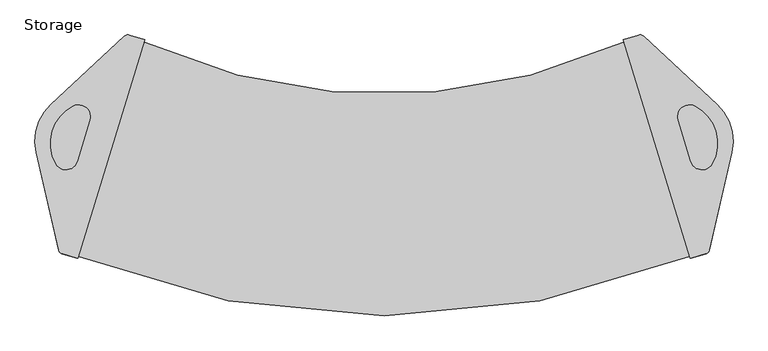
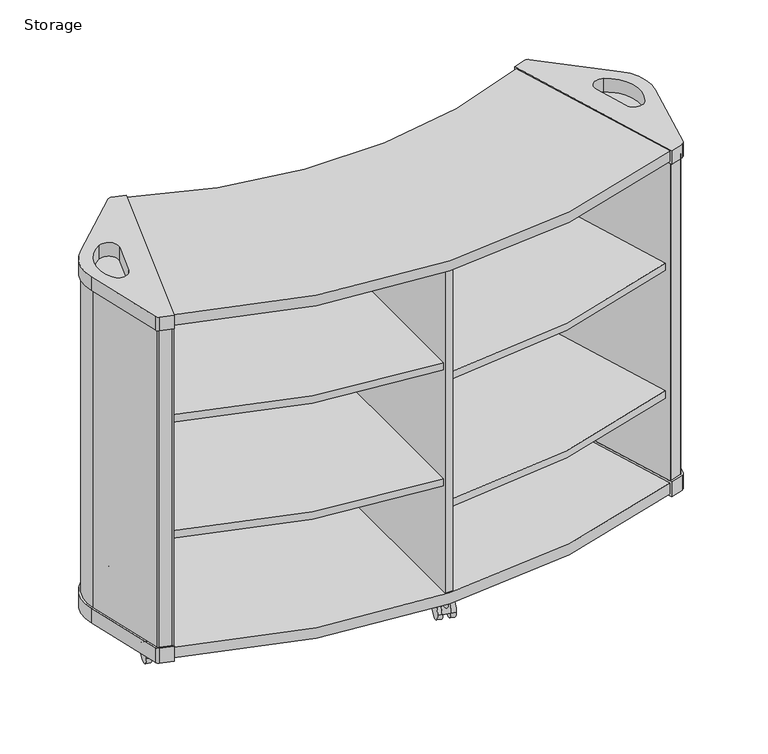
"""IFC4 building model written with IfcOpenShell, lengths in millimetres: furniture geometry, SmithSystem_AM_Storage_Education_Flowform_Mobile_Curved : Storage."""

from ifc_helpers import new_model, si_unit, point, frame, frame_2d, origin, place, context, project, spatial, polyline, circle_curve, trimmed, segment, composite_curve, outline, extrude, source, transform, mapped, element, save
from ifc_brep_helpers import plane_surface, cylinder_surface, revolved_surface, advanced_brep


def storage_93ea17b7(model_context):
    return source(origin(), model_context, "Body", "SolidModel", [
        extrude(outline(composite_curve([segment(polyline([(-658.8758878, -353.7996773), (-692.633463, -343.4300044)]), True, "CONTINUOUS"), segment(trimmed(circle_curve(frame_2d((-689.6500909, -333.7178939)), 10.16), [point((-692.633463, -343.4300044))], [point((-699.5527114, -335.9902731))], False, "CARTESIAN"), True, "CONTINUOUS"), segment(polyline([(-699.5527114, -335.9902731), (-747.8615058, -125.4692227)]), True, "CONTINUOUS"), segment(trimmed(circle_curve(frame_2d((-642.646163, -101.3251936)), 107.95), [point((-747.8615058, -125.4692227))], [point((-716.163177, -22.2780484))], False, "CARTESIAN"), True, "CONTINUOUS"), segment(polyline([(-716.163177, -22.2780484), (-558.0009965, 124.81912)]), True, "CONTINUOUS"), segment(trimmed(circle_curve(frame_2d((-551.0817481, 117.3793887)), 10.16), [point((-558.0009965, 124.81912))], [point((-548.098376, 127.0914993))], False, "CARTESIAN"), True, "CONTINUOUS"), segment(polyline([(-548.098376, 127.0914993), (-514.3408008, 116.7218264), (-658.8758878, -353.7996773)]), True, "CONTINUOUS")], self_intersect=False), holes=[composite_curve([segment(polyline([(-659.4941023, -144.963169), (-632.3325687, -56.1217958)]), True, "CONTINUOUS"), segment(trimmed(circle_curve(frame_2d((-656.6227095, -48.6955545)), 25.4), [point((-632.3325687, -56.1217958))], [point((-668.1431652, -26.0584368))], True, "CARTESIAN"), True, "CONTINUOUS"), segment(trimmed(circle_curve(frame_2d((-627.3482506, -106.2183985)), 89.9435629), [point((-668.1431652, -26.0584368))], [point((-705.9936493, -149.8617918))], True, "CARTESIAN"), True, "CONTINUOUS"), segment(trimmed(circle_curve(frame_2d((-683.7842431, -137.5369277)), 25.4), [point((-705.9936493, -149.8617918))], [point((-659.4941023, -144.963169))], True, "CARTESIAN"), True, "CONTINUOUS")], self_intersect=False)]), frame((0.0, 0.0, 986.5877449), z_axis=(0.0, 0.0, 1.0), x_axis=(1.0, 0.0, 0.0)), (0.0, 0.0, 1.0), 38.0247139),
        extrude(outline(composite_curve([segment(polyline([(658.8758878, -353.7996773), (514.3408008, 116.7218264), (548.098376, 127.0914993)]), True, "CONTINUOUS"), segment(trimmed(circle_curve(frame_2d((551.0817481, 117.3793887)), 10.16), [point((548.098376, 127.0914993))], [point((558.0009965, 124.81912))], False, "CARTESIAN"), True, "CONTINUOUS"), segment(polyline([(558.0009965, 124.81912), (716.163177, -22.2780484)]), True, "CONTINUOUS"), segment(trimmed(circle_curve(frame_2d((642.646163, -101.3251936)), 107.95), [point((716.163177, -22.2780484))], [point((747.8615058, -125.4692227))], False, "CARTESIAN"), True, "CONTINUOUS"), segment(polyline([(747.8615058, -125.4692227), (699.5527114, -335.9902731)]), True, "CONTINUOUS"), segment(trimmed(circle_curve(frame_2d((689.6500909, -333.7178939)), 10.16), [point((699.5527114, -335.9902731))], [point((692.633463, -343.4300044))], False, "CARTESIAN"), True, "CONTINUOUS"), segment(polyline([(692.633463, -343.4300044), (658.8758878, -353.7996773)]), True, "CONTINUOUS")], self_intersect=False), holes=[composite_curve([segment(trimmed(circle_curve(frame_2d((683.7842431, -137.5369277)), 25.4), [point((659.4941023, -144.963169))], [point((705.9936493, -149.8617918))], True, "CARTESIAN"), True, "CONTINUOUS"), segment(trimmed(circle_curve(frame_2d((627.3482506, -106.2183985)), 89.9435629), [point((705.9936493, -149.8617918))], [point((668.1431652, -26.0584368))], True, "CARTESIAN"), True, "CONTINUOUS"), segment(trimmed(circle_curve(frame_2d((656.6227095, -48.6955545)), 25.4), [point((668.1431652, -26.0584368))], [point((632.3325687, -56.1217958))], True, "CARTESIAN"), True, "CONTINUOUS"), segment(polyline([(632.3325687, -56.1217958), (659.4941023, -144.963169)]), True, "CONTINUOUS")], self_intersect=False)]), frame((0.0, 0.0, 986.5877449), z_axis=(0.0, 0.0, 1.0), x_axis=(1.0, 0.0, 0.0)), (0.0, 0.0, 1.0), 38.0247139),
        advanced_brep(
        [(-712.7035528, -25.9979141, 992.8751518), (-742.9101956, -124.3330331, 992.8751518), (-694.6014012, -334.8540835, 992.8751518), (-691.141777, -338.5739492, 992.8751518), (-662.240257, -347.451936, 992.8751518), (-520.6885421, 113.3574572, 992.8751518), (-549.590062, 122.235444, 992.8751518), (-554.5413723, 121.0992544, 992.8751518), (-632.3325687, -56.1217958, 992.8751518), (-659.4941023, -144.963169, 992.8751518), (-705.9936493, -149.8617918, 992.8751518), (-668.1431652, -26.0584368, 992.8751518), (-712.7035528, -25.9979141, 96.3183094), (-554.5413723, 121.0992544, 96.3183094), (-549.590062, 122.235444, 96.3183094), (-520.6885421, 113.3574572, 96.3183094), (-662.240257, -347.451936, 96.3183094), (-691.141777, -338.5739492, 96.3183094), (-694.6014012, -334.8540835, 96.3183094), (-742.9101956, -124.3330331, 96.3183094), (-659.4941023, -144.963169, 986.5877449), (-632.3325687, -56.1217958, 986.5877449), (-668.1431652, -26.0584368, 986.5877449), (-705.9936493, -149.8617918, 986.5877449)],
        [
            (0, 1, circle_curve(frame((-642.646163, -101.3251936, 992.8751518), z_axis=(0.0, 0.0, 1.0), x_axis=(0.955916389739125, -0.293638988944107, 0.0)), 102.87)),
            (1, 2),
            (2, 3, circle_curve(frame((-689.6500909, -333.7178939, 992.8751518), z_axis=(0.0, 0.0, 1.0), x_axis=(0.955916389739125, -0.293638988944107, 0.0)), 5.08)),
            (3, 4),
            (4, 5),
            (5, 6),
            (6, 7, circle_curve(frame((-551.0817481, 117.3793887, 992.8751518), z_axis=(0.0, 0.0, 1.0), x_axis=(0.955916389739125, -0.293638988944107, 0.0)), 5.08)),
            (7, 0),
            (8, 9),
            (9, 10, circle_curve(frame((-683.7842431, -137.5369277, 992.8751518), z_axis=(0.0, 0.0, -1.0), x_axis=(1.0, 0.0, 0.0)), 25.4)),
            (10, 11, circle_curve(frame((-627.3482506, -106.2183985, 992.8751518), z_axis=(0.0, 0.0, -1.0), x_axis=(1.0, 0.0, 0.0)), 89.9435629)),
            (11, 8, circle_curve(frame((-656.6227095, -48.6955545, 992.8751518), z_axis=(0.0, 0.0, -1.0), x_axis=(1.0, 0.0, 0.0)), 25.4)),
            (12, 13),
            (13, 14, circle_curve(frame((-551.0817481, 117.3793887, 96.3183094), z_axis=(0.0, 0.0, -1.0), x_axis=(0.955916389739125, -0.293638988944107, 0.0)), 5.08)),
            (14, 15),
            (15, 16),
            (16, 17),
            (17, 18, circle_curve(frame((-689.6500909, -333.7178939, 96.3183094), z_axis=(0.0, 0.0, -1.0), x_axis=(0.955916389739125, -0.293638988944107, 0.0)), 5.08)),
            (18, 19),
            (19, 12, circle_curve(frame((-642.646163, -101.3251936, 96.3183094), z_axis=(0.0, 0.0, -1.0), x_axis=(0.955916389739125, -0.293638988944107, 0.0)), 102.87)),
            (0, 12),
            (19, 1),
            (18, 2),
            (17, 3),
            (16, 4),
            (15, 5),
            (14, 6),
            (13, 7),
            (20, 21),
            (21, 22, circle_curve(frame((-656.6227095, -48.6955545, 986.5877449), z_axis=(0.0, 0.0, 1.0), x_axis=(1.0, 0.0, 0.0)), 25.4)),
            (22, 23, circle_curve(frame((-627.3482506, -106.2183985, 986.5877449), z_axis=(0.0, 0.0, 1.0), x_axis=(1.0, 0.0, 0.0)), 89.9435629)),
            (23, 20, circle_curve(frame((-683.7842431, -137.5369277, 986.5877449), z_axis=(0.0, 0.0, 1.0), x_axis=(1.0, 0.0, 0.0)), 25.4)),
            (20, 9),
            (8, 21),
            (11, 22),
            (10, 23),
        ],
        [
            plane_surface(frame((-544.311044, -131.5318364, 992.8751518), z_axis=(0.0, 0.0, 1.0), x_axis=(0.293638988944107, 0.955916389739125, 0.0))),
            plane_surface(frame((-544.311044, -131.5318364, 96.3183094), z_axis=(0.0, 0.0, -1.0), x_axis=(-0.293638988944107, -0.955916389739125, 0.0))),
            cylinder_surface(frame((-642.646163, -101.3251936, 96.3183094), z_axis=(0.0, 0.0, 1.0), x_axis=(0.955916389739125, -0.293638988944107, 0.0)), 102.87),
            plane_surface(frame((-742.9101956, -124.3330331, 992.8751518), z_axis=(-0.9746673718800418, -0.22365937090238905, 0.0), x_axis=(0.0, 0.0, -1.0))),
            cylinder_surface(frame((-689.6500909, -333.7178939, 96.3183094), z_axis=(0.0, 0.0, 1.0), x_axis=(0.955916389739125, -0.293638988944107, 0.0)), 5.08),
            plane_surface(frame((-691.141777, -338.5739492, 992.8751518), z_axis=(-0.2936389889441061, -0.9559163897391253, 0.0), x_axis=(0.0, 0.0, -1.0))),
            plane_surface(frame((-662.240257, -347.451936, 992.8751518), z_axis=(0.9559163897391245, -0.29363898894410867, 0.0), x_axis=(0.0, 0.0, -1.0))),
            plane_surface(frame((-520.6885421, 113.3574572, 992.8751518), z_axis=(0.29363898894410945, 0.9559163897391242, 0.0), x_axis=(0.0, 0.0, -1.0))),
            cylinder_surface(frame((-551.0817481, 117.3793887, 96.3183094), z_axis=(0.0, 0.0, 1.0), x_axis=(0.955916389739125, -0.293638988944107, 0.0)), 5.08),
            plane_surface(frame((-554.5413723, 121.0992544, 992.8751518), z_axis=(-0.6810283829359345, 0.7322570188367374, 0.0), x_axis=(0.0, 0.0, -1.0))),
            plane_surface(frame((-632.9080197, -58.0040112, 986.5877449), z_axis=(0.0, 0.0, 1.0000000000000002), x_axis=(-0.2923717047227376, -0.9563047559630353, 0.0))),
            plane_surface(frame((-659.4941023, -144.963169, 1115.0672484), z_axis=(-0.9563047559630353, 0.2923717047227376, 0.0), x_axis=(0.0, 0.0, -1.0))),
            revolved_surface(polyline([(-631.2227095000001, -48.6955545, 992.8751518), (-631.2227095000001, -48.6955545, 986.5877449)]), (-656.6227095, -48.6955545, 986.5877449), (0.0, 0.0, 1.0)),
            revolved_surface(polyline([(-537.4046877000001, -106.2183985, 992.8751518), (-537.4046877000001, -106.2183985, 986.5877449)]), (-627.3482506, -106.2183985, 986.5877449), (0.0, 0.0, 1.0)),
            revolved_surface(polyline([(-658.3842431, -137.5369277, 992.8751518), (-658.3842431, -137.5369277, 986.5877449)]), (-683.7842431, -137.5369277, 986.5877449), (0.0, 0.0, 1.0)),
        ],
        [
            (0, [[1, 2, 3, 4, 5, 6, 7, 8], [9, 10, 11, 12]]),
            (1, [[13, 14, 15, 16, 17, 18, 19, 20]]),
            (2, [[-1, 21, -20, 22]]),
            (3, [[-2, -22, -19, 23]]),
            (4, [[-3, -23, -18, 24]]),
            (5, [[-4, -24, -17, 25]]),
            (6, [[-5, -25, -16, 26]]),
            (7, [[-6, -26, -15, 27]]),
            (8, [[-7, -27, -14, 28]]),
            (9, [[-8, -28, -13, -21]]),
            (10, [[29, 30, 31, 32]]),
            (11, [[-29, 33, -9, 34]]),
            (12, [[-30, -34, -12, 35]]),
            (13, [[-31, -35, -11, 36]]),
            (14, [[-32, -36, -10, -33]]),
        ],
    ),
        advanced_brep(
        [(712.7035528, -25.9979141, 992.8751518), (554.5413723, 121.0992544, 992.8751518), (549.590062, 122.235444, 992.8751518), (520.6885421, 113.3574572, 992.8751518), (662.240257, -347.451936, 992.8751518), (691.141777, -338.5739492, 992.8751518), (694.6014012, -334.8540835, 992.8751518), (742.9101956, -124.3330331, 992.8751518), (705.9936493, -149.8617918, 992.8751518), (659.4941023, -144.963169, 992.8751518), (632.3325687, -56.1217958, 992.8751518), (668.1431652, -26.0584368, 992.8751518), (712.7035528, -25.9979141, 96.3183094), (742.9101956, -124.3330331, 96.3183094), (694.6014012, -334.8540835, 96.3183094), (691.141777, -338.5739492, 96.3183094), (662.240257, -347.451936, 96.3183094), (520.6885421, 113.3574572, 96.3183094), (549.590062, 122.235444, 96.3183094), (554.5413723, 121.0992544, 96.3183094), (659.4941023, -144.963169, 986.5877449), (705.9936493, -149.8617918, 986.5877449), (668.1431652, -26.0584368, 986.5877449), (632.3325687, -56.1217958, 986.5877449)],
        [
            (0, 1),
            (1, 2, circle_curve(frame((551.0817481, 117.3793887, 992.8751518), z_axis=(0.0, 0.0, 1.0), x_axis=(-0.955916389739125, -0.293638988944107, 0.0)), 5.08)),
            (2, 3),
            (3, 4),
            (4, 5),
            (5, 6, circle_curve(frame((689.6500909, -333.7178939, 992.8751518), z_axis=(0.0, 0.0, 1.0), x_axis=(-0.955916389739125, -0.293638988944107, 0.0)), 5.08)),
            (6, 7),
            (7, 0, circle_curve(frame((642.646163, -101.3251936, 992.8751518), z_axis=(0.0, 0.0, 1.0), x_axis=(-0.955916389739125, -0.293638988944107, 0.0)), 102.87)),
            (8, 9, circle_curve(frame((683.7842431, -137.5369277, 992.8751518), z_axis=(0.0, 0.0, -1.0), x_axis=(-1.0, 0.0, 0.0)), 25.4)),
            (9, 10),
            (10, 11, circle_curve(frame((656.6227095, -48.6955545, 992.8751518), z_axis=(0.0, 0.0, -1.0), x_axis=(-1.0, 0.0, 0.0)), 25.4)),
            (11, 8, circle_curve(frame((627.3482506, -106.2183985, 992.8751518), z_axis=(0.0, 0.0, -1.0), x_axis=(-1.0, 0.0, 0.0)), 89.9435629)),
            (12, 13, circle_curve(frame((642.646163, -101.3251936, 96.3183094), z_axis=(0.0, 0.0, -1.0), x_axis=(-0.955916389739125, -0.293638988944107, 0.0)), 102.87)),
            (13, 14),
            (14, 15, circle_curve(frame((689.6500909, -333.7178939, 96.3183094), z_axis=(0.0, 0.0, -1.0), x_axis=(-0.955916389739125, -0.293638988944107, 0.0)), 5.08)),
            (15, 16),
            (16, 17),
            (17, 18),
            (18, 19, circle_curve(frame((551.0817481, 117.3793887, 96.3183094), z_axis=(0.0, 0.0, -1.0), x_axis=(-0.955916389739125, -0.293638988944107, 0.0)), 5.08)),
            (19, 12),
            (0, 12),
            (19, 1),
            (18, 2),
            (17, 3),
            (16, 4),
            (15, 5),
            (14, 6),
            (13, 7),
            (20, 21, circle_curve(frame((683.7842431, -137.5369277, 986.5877449), z_axis=(0.0, 0.0, 1.0), x_axis=(-1.0, 0.0, 0.0)), 25.4)),
            (21, 22, circle_curve(frame((627.3482506, -106.2183985, 986.5877449), z_axis=(0.0, 0.0, 1.0), x_axis=(-1.0, 0.0, 0.0)), 89.9435629)),
            (22, 23, circle_curve(frame((656.6227095, -48.6955545, 986.5877449), z_axis=(0.0, 0.0, 1.0), x_axis=(-1.0, 0.0, 0.0)), 25.4)),
            (23, 20),
            (20, 9),
            (8, 21),
            (11, 22),
            (10, 23),
        ],
        [
            plane_surface(frame((-544.311044, -131.5318364, 992.8751518), z_axis=(0.0, 0.0, 1.0), x_axis=(0.293638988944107, 0.955916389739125, 0.0))),
            plane_surface(frame((-544.311044, -131.5318364, 96.3183094), z_axis=(0.0, 0.0, -1.0), x_axis=(-0.293638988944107, -0.955916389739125, 0.0))),
            plane_surface(frame((712.7035528, -25.9979141, 992.8751518), z_axis=(0.6810283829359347, 0.7322570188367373, 0.0), x_axis=(0.0, 0.0, -1.0))),
            cylinder_surface(frame((551.0817481, 117.3793887, 0.0), z_axis=(0.0, 0.0, 1.0), x_axis=(-0.955916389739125, -0.293638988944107, 0.0)), 5.08),
            plane_surface(frame((549.590062, 122.235444, 992.8751518), z_axis=(-0.29363898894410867, 0.9559163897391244, 0.0), x_axis=(0.0, 0.0, -1.0))),
            plane_surface(frame((520.6885421, 113.3574572, 992.8751518), z_axis=(-0.9559163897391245, -0.2936389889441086, 0.0), x_axis=(0.0, 0.0, -1.0))),
            plane_surface(frame((662.240257, -347.451936, 992.8751518), z_axis=(0.2936389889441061, -0.9559163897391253, 0.0), x_axis=(0.0, 0.0, -1.0))),
            cylinder_surface(frame((689.6500909, -333.7178939, 0.0), z_axis=(0.0, 0.0, 1.0), x_axis=(-0.955916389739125, -0.293638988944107, 0.0)), 5.08),
            plane_surface(frame((694.6014012, -334.8540835, 992.8751518), z_axis=(0.9746673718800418, -0.22365937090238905, 0.0), x_axis=(0.0, 0.0, -1.0))),
            cylinder_surface(frame((642.646163, -101.3251936, 0.0), z_axis=(0.0, 0.0, 1.0), x_axis=(-0.955916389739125, -0.293638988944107, 0.0)), 102.87),
            plane_surface(frame((-632.9080197, -58.0040112, 986.5877449), z_axis=(0.0, 0.0, 1.0000000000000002), x_axis=(-0.2923717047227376, -0.9563047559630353, 0.0))),
            revolved_surface(polyline([(658.3842431, -137.5369277, 992.8751518), (658.3842431, -137.5369277, 986.5877449)]), (683.7842431, -137.5369277, 0.0), (0.0, 0.0, 1.0)),
            revolved_surface(polyline([(537.4046877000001, -106.2183985, 992.8751518), (537.4046877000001, -106.2183985, 986.5877449)]), (627.3482506, -106.2183985, 0.0), (0.0, 0.0, 1.0)),
            revolved_surface(polyline([(631.2227095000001, -48.6955545, 992.8751518), (631.2227095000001, -48.6955545, 986.5877449)]), (656.6227095, -48.6955545, 0.0), (0.0, 0.0, 1.0)),
            plane_surface(frame((632.3325687, -56.1217958, 1115.0672484), z_axis=(0.9563047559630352, 0.2923717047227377, 0.0), x_axis=(0.0, 0.0, -1.0))),
        ],
        [
            (0, [[1, 2, 3, 4, 5, 6, 7, 8], [9, 10, 11, 12]]),
            (1, [[13, 14, 15, 16, 17, 18, 19, 20]]),
            (2, [[-1, 21, -20, 22]]),
            (3, [[-2, -22, -19, 23]]),
            (4, [[-3, -23, -18, 24]]),
            (5, [[-4, -24, -17, 25]]),
            (6, [[-5, -25, -16, 26]]),
            (7, [[-6, -26, -15, 27]]),
            (8, [[-7, -27, -14, 28]]),
            (9, [[-8, -28, -13, -21]]),
            (10, [[29, 30, 31, 32]]),
            (11, [[-29, 33, -9, 34]]),
            (12, [[-30, -34, -12, 35]]),
            (13, [[-31, -35, -11, 36]]),
            (14, [[-32, -36, -10, -33]]),
        ],
    ),
        extrude(outline(composite_curve([segment(trimmed(circle_curve(frame_2d((1.5777248, -455.5770589)), 6.576466), [point((7.9588416, -457.16805))], [point((-4.8033921, -453.9860677))], False, "CARTESIAN"), True, "CONTINUOUS"), segment(trimmed(circle_curve(frame_2d((1.5777248, -455.5770589)), 6.576466), [point((-4.8033921, -453.9860677))], [point((7.9588416, -457.16805))], False, "CARTESIAN"), True, "CONTINUOUS")], self_intersect=False)), frame((0.0, 0.0, 37.9317354), z_axis=(0.0, 0.0, 1.0), x_axis=(1.0, 0.0, 0.0)), (0.0, 0.0, 1.0), 23.0809165),
        extrude(outline(composite_curve([segment(trimmed(circle_curve(frame_2d((25.3999999, 0.0)), 25.4), [point((50.8, 0.0))], [point((0.0, 0.0))], False, "CARTESIAN"), True, "CONTINUOUS"), segment(polyline([(0.0, 0.0), (50.8, 0.0)]), True, "CONTINUOUS")], self_intersect=False)), frame((8.3291688, -468.0635834, 25.5644515), z_axis=(-0.9702957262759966, 0.24192189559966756, 0.0), x_axis=(0.24192189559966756, 0.9702957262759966, 0.0)), (0.0, 0.0, 1.0), 21.3732957),
        extrude(outline(composite_curve([segment(trimmed(circle_curve(frame_2d((0.0, -25.4000001)), 25.4), [point((0.0, -50.8))], [point((0.0, 0.0))], False, "CARTESIAN"), True, "CONTINUOUS"), segment(trimmed(circle_curve(frame_2d((0.0, -25.4000001)), 25.4), [point((0.0, 0.0))], [point((0.0, -50.8))], False, "CARTESIAN"), True, "CONTINUOUS")], self_intersect=False)), frame((2.1346675, -414.1639484, 25.5644515), z_axis=(-0.9702957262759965, 0.24192189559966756, 0.0), x_axis=(0.0, 0.0, 1.0)), (0.0, 0.0, 1.0), 12.6986635),
        extrude(outline(composite_curve([segment(trimmed(circle_curve(frame_2d((0.0, -25.4000001)), 25.4), [point((0.0, -50.8))], [point((0.0, 0.0))], False, "CARTESIAN"), True, "CONTINUOUS"), segment(trimmed(circle_curve(frame_2d((0.0, -25.4000001)), 25.4), [point((0.0, 0.0))], [point((0.0, -50.8))], False, "CARTESIAN"), True, "CONTINUOUS")], self_intersect=False)), frame((32.9667018, -421.8512379, 25.5644515), z_axis=(-0.9702957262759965, 0.24192189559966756, 0.0), x_axis=(0.0, 0.0, 1.0)), (0.0, 0.0, 1.0), 12.7259148),
        extrude(outline(composite_curve([segment(trimmed(circle_curve(frame_2d((0.0, 1247.8518764)), 1247.8518764), [point((-515.9020967, 111.6391621))], [point((515.9020967, 111.6391621))], True, "CARTESIAN"), True, "CONTINUOUS"), segment(polyline([(515.9020967, 111.6391621), (519.0303193, 101.4555033)]), True, "CONTINUOUS"), segment(trimmed(circle_curve(frame_2d((9.9556384, 1151.2592881)), 1166.7240536), [point((519.0303193, 101.4555033))], [point((0.0, -15.4222891))], False, "CARTESIAN"), True, "CONTINUOUS"), segment(trimmed(circle_curve(frame_2d((-9.9556384, 1151.2592881)), 1166.7240536), [point((0.0, -15.4222891))], [point((-519.0303193, 101.4555033))], False, "CARTESIAN"), True, "CONTINUOUS"), segment(polyline([(-519.0303193, 101.4555033), (-515.9020967, 111.6391621)]), True, "CONTINUOUS")], self_intersect=False)), frame((0.0, 0.0, 90.8895346), z_axis=(0.0, 0.0, 1.0), x_axis=(1.0, 0.0, 0.0)), (0.0, 0.0, 1.0), 901.9856173),
        extrude(outline(composite_curve([segment(polyline([(519.0303193, 101.4555033), (653.2820651, -335.5894701)]), True, "CONTINUOUS"), segment(trimmed(circle_curve(frame_2d((-26.790283, 1362.8072495)), 1829.4944154), [point((653.2820651, -335.5894701))], [point((10.1219521, -466.3147537))], False, "CARTESIAN"), True, "CONTINUOUS"), segment(polyline([(10.1219521, -466.3147537), (10.1219521, -15.4647537)]), True, "CONTINUOUS"), segment(trimmed(circle_curve(frame_2d((9.9556384, 1151.2592881)), 1166.7240536), [point((10.1219521, -15.4647537))], [point((519.0303193, 101.4555033))], True, "CARTESIAN"), True, "CONTINUOUS")], self_intersect=False)), frame((0.0, 0.0, 679.6280657), z_axis=(0.0, 0.0, 1.0), x_axis=(1.0, 0.0, 0.0)), (0.0, 0.0, 1.0), 20.2447748),
        extrude(outline(composite_curve([segment(polyline([(519.0303193, 101.4555033), (653.2820651, -335.5894701)]), True, "CONTINUOUS"), segment(trimmed(circle_curve(frame_2d((-26.790283, 1362.8072495)), 1829.4944154), [point((653.2820651, -335.5894701))], [point((10.1219521, -466.3147537))], False, "CARTESIAN"), True, "CONTINUOUS"), segment(polyline([(10.1219521, -466.3147537), (10.1219521, -15.4647537)]), True, "CONTINUOUS"), segment(trimmed(circle_curve(frame_2d((9.9556384, 1151.2592881)), 1166.7240536), [point((10.1219521, -15.4647537))], [point((519.0303193, 101.4555033))], True, "CARTESIAN"), True, "CONTINUOUS")], self_intersect=False)), frame((0.0, 0.0, 322.0892063), z_axis=(0.0, 0.0, 1.0), x_axis=(1.0, 0.0, 0.0)), (0.0, 0.0, 1.0), 20.2434955),
        extrude(outline(composite_curve([segment(trimmed(circle_curve(frame_2d((-9.9556384, 1151.2592881)), 1166.7240536), [point((-519.0303193, 101.4555033))], [point((-10.1219521, -15.4647537))], True, "CARTESIAN"), True, "CONTINUOUS"), segment(polyline([(-10.1219521, -15.4647537), (-10.1219521, -466.3147537)]), True, "CONTINUOUS"), segment(trimmed(circle_curve(frame_2d((26.790283, 1362.8072495)), 1829.4944154), [point((-10.1219521, -466.3147537))], [point((-653.2820651, -335.5894701))], False, "CARTESIAN"), True, "CONTINUOUS"), segment(polyline([(-653.2820651, -335.5894701), (-519.0303193, 101.4555033)]), True, "CONTINUOUS")], self_intersect=False)), frame((0.0, 0.0, 712.1246287), z_axis=(0.0, 0.0, 1.0), x_axis=(1.0, 0.0, 0.0)), (0.0, 0.0, 1.0), 20.2433865),
        extrude(outline(composite_curve([segment(trimmed(circle_curve(frame_2d((-9.9556384, 1151.2592881)), 1166.7240536), [point((-519.0303193, 101.4555033))], [point((-10.1219521, -15.4647537))], True, "CARTESIAN"), True, "CONTINUOUS"), segment(polyline([(-10.1219521, -15.4647537), (-10.1219521, -466.3147537)]), True, "CONTINUOUS"), segment(trimmed(circle_curve(frame_2d((26.790283, 1362.8072495)), 1829.4944154), [point((-10.1219521, -466.3147537))], [point((-653.2820651, -335.5894701))], False, "CARTESIAN"), True, "CONTINUOUS"), segment(polyline([(-653.2820651, -335.5894701), (-519.0303193, 101.4555033)]), True, "CONTINUOUS")], self_intersect=False)), frame((0.0, 0.0, 387.0958939), z_axis=(0.0, 0.0, 1.0), x_axis=(1.0, 0.0, 0.0)), (0.0, 0.0, 1.0), 20.2458895),
        extrude(outline(polyline([(10.070862, -15.4647537), (10.070862, -472.6647537), (-10.1219521, -472.6647537), (-10.1219521, -15.4647537), (10.070862, -15.4647537)])), frame((0.0, 0.0, 90.8895346), z_axis=(0.0, 0.0, 1.0), x_axis=(1.0, 0.0, 0.0)), (0.0, 0.0, 1.0), 901.9856173),
        extrude(outline(composite_curve([segment(polyline([(-658.8758878, -353.7996773), (-692.633463, -343.4300044)]), True, "CONTINUOUS"), segment(trimmed(circle_curve(frame_2d((-689.6500909, -333.7178939)), 10.16), [point((-692.633463, -343.4300044))], [point((-699.5527114, -335.9902731))], False, "CARTESIAN"), True, "CONTINUOUS"), segment(polyline([(-699.5527114, -335.9902731), (-747.8615058, -125.4692227)]), True, "CONTINUOUS"), segment(trimmed(circle_curve(frame_2d((-642.646163, -101.3251936)), 107.95), [point((-747.8615058, -125.4692227))], [point((-716.163177, -22.2780484))], False, "CARTESIAN"), True, "CONTINUOUS"), segment(polyline([(-716.163177, -22.2780484), (-558.0009965, 124.81912)]), True, "CONTINUOUS"), segment(trimmed(circle_curve(frame_2d((-551.0817481, 117.3793887)), 10.16), [point((-558.0009965, 124.81912))], [point((-548.098376, 127.0914993))], False, "CARTESIAN"), True, "CONTINUOUS"), segment(polyline([(-548.098376, 127.0914993), (-514.3408008, 116.7218264), (-658.8758878, -353.7996773)]), True, "CONTINUOUS")], self_intersect=False)), frame((0.0, 0.0, 55.073914), z_axis=(0.0, 0.0, 1.0), x_axis=(1.0, 0.0, 0.0)), (0.0, 0.0, 1.0), 41.2442349),
        extrude(outline(composite_curve([segment(polyline([(658.8758878, -353.7996773), (514.3408008, 116.7218264), (548.098376, 127.0914993)]), True, "CONTINUOUS"), segment(trimmed(circle_curve(frame_2d((551.0817481, 117.3793887)), 10.16), [point((548.098376, 127.0914993))], [point((558.0009965, 124.81912))], False, "CARTESIAN"), True, "CONTINUOUS"), segment(polyline([(558.0009965, 124.81912), (716.163177, -22.2780484)]), True, "CONTINUOUS"), segment(trimmed(circle_curve(frame_2d((642.646163, -101.3251936)), 107.95), [point((716.163177, -22.2780484))], [point((747.8615058, -125.4692227))], False, "CARTESIAN"), True, "CONTINUOUS"), segment(polyline([(747.8615058, -125.4692227), (699.5527114, -335.9902731)]), True, "CONTINUOUS"), segment(trimmed(circle_curve(frame_2d((689.6500909, -333.7178939)), 10.16), [point((699.5527114, -335.9902731))], [point((692.633463, -343.4300044))], False, "CARTESIAN"), True, "CONTINUOUS"), segment(polyline([(692.633463, -343.4300044), (658.8758878, -353.7996773)]), True, "CONTINUOUS")], self_intersect=False)), frame((0.0, 0.0, 55.073914), z_axis=(0.0, 0.0, 1.0), x_axis=(1.0, 0.0, 0.0)), (0.0, 0.0, 1.0), 41.2442349),
        extrude(outline(polyline([(-674.4983157, -343.9447501), (-532.9437207, 116.8740188), (-515.9020967, 111.6391621), (-657.4566917, -349.1796068), (-674.4983157, -343.9447501)])), frame((0.0, 0.0, 96.3183094), z_axis=(0.0, 0.0, 1.0), x_axis=(1.0, 0.0, 0.0)), (0.0, 0.0, 1.0), 896.5568425),
        extrude(outline(polyline([(674.4983157, -343.9447501), (657.4566917, -349.1796068), (515.9020967, 111.6391621), (532.9437207, 116.8740188), (674.4983157, -343.9447501)])), frame((0.0, 0.0, 96.3183094), z_axis=(0.0, 0.0, 1.0), x_axis=(1.0, 0.0, 0.0)), (0.0, 0.0, 1.0), 896.5568425),
        extrude(outline(composite_curve([segment(polyline([(515.9020967, 111.6391621), (657.4667222, -349.2122601)]), True, "CONTINUOUS"), segment(trimmed(circle_curve(frame_2d((0.2762295, 1269.948157)), 1747.4495128), [point((657.4667222, -349.2122601))], [point((-657.405454, -349.012807))], False, "CARTESIAN"), True, "CONTINUOUS"), segment(polyline([(-657.405454, -349.012807), (-515.9020967, 111.6391621)]), True, "CONTINUOUS"), segment(trimmed(circle_curve(frame_2d((0.0, 1247.8518764)), 1247.8518764), [point((-515.9020967, 111.6391621))], [point((515.9020967, 111.6391621))], True, "CARTESIAN"), True, "CONTINUOUS")], self_intersect=False)), frame((0.0, 0.0, 61.0126518), z_axis=(0.0, 0.0, 1.0), x_axis=(1.0, 0.0, 0.0)), (0.0, 0.0, 1.0), 29.8768827),
        extrude(outline(composite_curve([segment(polyline([(515.9020967, 111.6391621), (657.4667222, -349.2122601)]), True, "CONTINUOUS"), segment(trimmed(circle_curve(frame_2d((0.2762295, 1269.948157)), 1747.4495128), [point((657.4667222, -349.2122601))], [point((-657.405454, -349.012807))], False, "CARTESIAN"), True, "CONTINUOUS"), segment(polyline([(-657.405454, -349.012807), (-515.9020967, 111.6391621)]), True, "CONTINUOUS"), segment(trimmed(circle_curve(frame_2d((0.0, 1247.8518764)), 1247.8518764), [point((-515.9020967, 111.6391621))], [point((515.9020967, 111.6391621))], True, "CARTESIAN"), True, "CONTINUOUS")], self_intersect=False)), frame((0.0, 0.0, 992.8751518), z_axis=(0.0, 0.0, 1.0), x_axis=(1.0, 0.0, 0.0)), (0.0, 0.0, 1.0), 29.1969824),
        extrude(outline(composite_curve([segment(trimmed(circle_curve(frame_2d((664.8332412, -272.7876922)), 6.576466), [point((658.4521243, -274.3786833))], [point((671.214358, -271.196701))], False, "CARTESIAN"), True, "CONTINUOUS"), segment(trimmed(circle_curve(frame_2d((664.8332412, -272.7876922)), 6.576466), [point((671.214358, -271.196701))], [point((658.4521243, -274.3786833))], False, "CARTESIAN"), True, "CONTINUOUS")], self_intersect=False)), frame((0.0, 0.0, 37.9317354), z_axis=(0.0, 0.0, 1.0), x_axis=(1.0, 0.0, 0.0)), (0.0, 0.0, 1.0), 17.1421786),
        extrude(outline(composite_curve([segment(polyline([(0.0, 0.0), (0.0, -50.8)]), True, "CONTINUOUS"), segment(trimmed(circle_curve(frame_2d((0.0, -25.4)), 25.4), [point((0.0, -50.8))], [point((0.0, 0.0))], False, "CARTESIAN"), True, "CONTINUOUS")], self_intersect=False)), frame((645.7921649, -235.9831938, 25.5644515), z_axis=(0.9702957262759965, 0.24192189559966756, 0.0), x_axis=(0.0, 0.0, -1.0)), (0.0, 0.0, 1.0), 21.3732957),
        extrude(outline(composite_curve([segment(trimmed(circle_curve(frame_2d((0.0, -25.4000001)), 25.4), [point((0.0, -50.8))], [point((0.0, 0.0))], False, "CARTESIAN"), True, "CONTINUOUS"), segment(trimmed(circle_curve(frame_2d((0.0, -25.4000001)), 25.4), [point((0.0, 0.0))], [point((0.0, -50.8))], False, "CARTESIAN"), True, "CONTINUOUS")], self_intersect=False)), frame((664.2762984, -231.3745817, 25.5644515), z_axis=(0.9702957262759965, 0.24192189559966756, 0.0), x_axis=(0.0, 0.0, -1.0)), (0.0, 0.0, 1.0), 12.6986635),
        extrude(outline(composite_curve([segment(trimmed(circle_curve(frame_2d((0.0, -25.4000001)), 25.4), [point((0.0, -50.8))], [point((0.0, 0.0))], False, "CARTESIAN"), True, "CONTINUOUS"), segment(trimmed(circle_curve(frame_2d((0.0, -25.4000001)), 25.4), [point((0.0, 0.0))], [point((0.0, -50.8))], False, "CARTESIAN"), True, "CONTINUOUS")], self_intersect=False)), frame((633.4442641, -239.0618712, 25.5644515), z_axis=(0.9702957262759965, 0.24192189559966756, 0.0), x_axis=(0.0, 0.0, -1.0)), (0.0, 0.0, 1.0), 12.7259148),
        extrude(outline(composite_curve([segment(trimmed(circle_curve(frame_2d((582.6442028, 60.2356588)), 6.576466), [point((589.0253197, 61.8266499))], [point((576.263086, 58.6446677))], False, "CARTESIAN"), True, "CONTINUOUS"), segment(trimmed(circle_curve(frame_2d((582.6442028, 60.2356588)), 6.576466), [point((576.263086, 58.6446677))], [point((589.0253197, 61.8266499))], False, "CARTESIAN"), True, "CONTINUOUS")], self_intersect=False)), frame((0.0, 0.0, 37.9317354), z_axis=(0.0, 0.0, 1.0), x_axis=(1.0, 0.0, 0.0)), (0.0, 0.0, 1.0), 17.1421786),
        extrude(outline(composite_curve([segment(trimmed(circle_curve(frame_2d((0.0, -25.4)), 25.4), [point((0.0, 0.0))], [point((0.0, -50.8))], False, "CARTESIAN"), True, "CONTINUOUS"), segment(polyline([(0.0, -50.8), (0.0, 0.0)]), True, "CONTINUOUS")], self_intersect=False)), frame((580.9468617, 18.2604923, 25.5644515), z_axis=(0.9702957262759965, 0.24192189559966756, 0.0), x_axis=(0.0, 0.0, 1.0)), (0.0, 0.0, 1.0), 21.3732957),
        extrude(outline(composite_curve([segment(trimmed(circle_curve(frame_2d((0.0, -25.4000001)), 25.4), [point((0.0, -50.8))], [point((0.0, 0.0))], False, "CARTESIAN"), True, "CONTINUOUS"), segment(trimmed(circle_curve(frame_2d((0.0, -25.4000001)), 25.4), [point((0.0, 0.0))], [point((0.0, -50.8))], False, "CARTESIAN"), True, "CONTINUOUS")], self_intersect=False)), frame((570.8796866, 15.7504636, 25.5644515), z_axis=(0.9702957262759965, 0.24192189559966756, 0.0), x_axis=(0.0, 0.0, 1.0)), (0.0, 0.0, 1.0), 12.6986635),
        extrude(outline(composite_curve([segment(trimmed(circle_curve(frame_2d((0.0, -25.3999999)), 25.4), [point((0.0, -50.8))], [point((0.0, 0.0))], False, "CARTESIAN"), True, "CONTINUOUS"), segment(trimmed(circle_curve(frame_2d((0.0, -25.3999999)), 25.4), [point((0.0, 0.0))], [point((0.0, -50.8))], False, "CARTESIAN"), True, "CONTINUOUS")], self_intersect=False)), frame((601.6852791, 23.4311605, 25.5644515), z_axis=(0.9702957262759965, 0.24192189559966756, 0.0), x_axis=(0.0, 0.0, 1.0)), (0.0, 0.0, 1.0), 12.7259148),
        extrude(outline(composite_curve([segment(trimmed(circle_curve(frame_2d((-664.8332412, -272.7876922)), 6.576466), [point((-658.4521243, -274.3786833))], [point((-671.214358, -271.196701))], False, "CARTESIAN"), True, "CONTINUOUS"), segment(trimmed(circle_curve(frame_2d((-664.8332412, -272.7876922)), 6.576466), [point((-671.214358, -271.196701))], [point((-658.4521243, -274.3786833))], False, "CARTESIAN"), True, "CONTINUOUS")], self_intersect=False)), frame((0.0, 0.0, 37.9317354), z_axis=(0.0, 0.0, 1.0), x_axis=(1.0, 0.0, 0.0)), (0.0, 0.0, 1.0), 17.1421786),
        extrude(outline(composite_curve([segment(trimmed(circle_curve(frame_2d((25.4, 0.0)), 25.4), [point((50.8, 0.0))], [point((0.0, 0.0))], False, "CARTESIAN"), True, "CONTINUOUS"), segment(polyline([(0.0, 0.0), (50.8, 0.0)]), True, "CONTINUOUS")], self_intersect=False)), frame((-658.0817972, -285.2742167, 25.5644515), z_axis=(-0.9702957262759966, 0.24192189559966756, 0.0), x_axis=(0.24192189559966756, 0.9702957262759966, 0.0)), (0.0, 0.0, 1.0), 21.3732957),
        extrude(outline(composite_curve([segment(trimmed(circle_curve(frame_2d((0.0, -25.4000001)), 25.4), [point((0.0, -50.8))], [point((0.0, 0.0))], False, "CARTESIAN"), True, "CONTINUOUS"), segment(trimmed(circle_curve(frame_2d((0.0, -25.4000001)), 25.4), [point((0.0, 0.0))], [point((0.0, -50.8))], False, "CARTESIAN"), True, "CONTINUOUS")], self_intersect=False)), frame((-664.2762984, -231.3745817, 25.5644515), z_axis=(-0.9702957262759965, 0.24192189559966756, 0.0), x_axis=(0.0, 0.0, 1.0)), (0.0, 0.0, 1.0), 12.6986635),
        extrude(outline(composite_curve([segment(trimmed(circle_curve(frame_2d((0.0, -25.4000001)), 25.4), [point((0.0, -50.8))], [point((0.0, 0.0))], False, "CARTESIAN"), True, "CONTINUOUS"), segment(trimmed(circle_curve(frame_2d((0.0, -25.4000001)), 25.4), [point((0.0, 0.0))], [point((0.0, -50.8))], False, "CARTESIAN"), True, "CONTINUOUS")], self_intersect=False)), frame((-633.4442641, -239.0618712, 25.5644515), z_axis=(-0.9702957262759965, 0.24192189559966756, 0.0), x_axis=(0.0, 0.0, 1.0)), (0.0, 0.0, 1.0), 12.7259148),
        extrude(outline(composite_curve([segment(trimmed(circle_curve(frame_2d((-582.6442028, 60.2356588)), 6.576466), [point((-589.0253197, 61.8266499))], [point((-576.263086, 58.6446677))], False, "CARTESIAN"), True, "CONTINUOUS"), segment(trimmed(circle_curve(frame_2d((-582.6442028, 60.2356588)), 6.576466), [point((-576.263086, 58.6446677))], [point((-589.0253197, 61.8266499))], False, "CARTESIAN"), True, "CONTINUOUS")], self_intersect=False)), frame((0.0, 0.0, 37.9317354), z_axis=(0.0, 0.0, 1.0), x_axis=(1.0, 0.0, 0.0)), (0.0, 0.0, 1.0), 17.1421786),
        extrude(outline(composite_curve([segment(polyline([(-50.8, 0.0), (0.0, 0.0)]), True, "CONTINUOUS"), segment(trimmed(circle_curve(frame_2d((-25.4, 0.0)), 25.4), [point((0.0, 0.0))], [point((-50.8, 0.0))], False, "CARTESIAN"), True, "CONTINUOUS")], self_intersect=False)), frame((-568.6572294, 67.5515152, 25.5644515), z_axis=(-0.9702957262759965, 0.24192189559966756, 0.0), x_axis=(0.24192189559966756, 0.9702957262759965, 0.0)), (0.0, 0.0, 1.0), 21.3732957),
        extrude(outline(composite_curve([segment(trimmed(circle_curve(frame_2d((0.0, -25.4000001)), 25.4), [point((0.0, -50.8))], [point((0.0, 0.0))], False, "CARTESIAN"), True, "CONTINUOUS"), segment(trimmed(circle_curve(frame_2d((0.0, -25.4000001)), 25.4), [point((0.0, 0.0))], [point((0.0, -50.8))], False, "CARTESIAN"), True, "CONTINUOUS")], self_intersect=False)), frame((-570.8796866, 15.7504636, 25.5644515), z_axis=(-0.9702957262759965, 0.24192189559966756, 0.0), x_axis=(0.0, 0.0, -1.0)), (0.0, 0.0, 1.0), 12.6986635),
        extrude(outline(composite_curve([segment(trimmed(circle_curve(frame_2d((0.0, -25.3999999)), 25.4), [point((0.0, -50.8))], [point((0.0, 0.0))], False, "CARTESIAN"), True, "CONTINUOUS"), segment(trimmed(circle_curve(frame_2d((0.0, -25.3999999)), 25.4), [point((0.0, 0.0))], [point((0.0, -50.8))], False, "CARTESIAN"), True, "CONTINUOUS")], self_intersect=False)), frame((-601.6852791, 23.4311605, 25.5644515), z_axis=(-0.9702957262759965, 0.24192189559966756, 0.0), x_axis=(0.0, 0.0, -1.0)), (0.0, 0.0, 1.0), 12.7259148),
    ])


if __name__ == "__main__":
    model = new_model("IFC4")
    model_context = context("Model", 3, world=origin())
    ifc_project = project(units=[si_unit("LENGTHUNIT", "METRE", prefix="MILLI")], contexts=[model_context])
    site = spatial("IfcSite", under=ifc_project)
    building = spatial("IfcBuilding", under=site)
    placement = place(None, origin())
    storage_shape = storage_93ea17b7(model_context)
    element("IfcFurniture", 1, ObjectType="SmithSystem_AM_Storage_Education_Flowform_Mobile_Curved : Storage", at=placement, inside=building, context=model_context, shape_type="MappedRepresentation", body=[
        mapped(storage_shape, transform((0.0, 0.0, 0.0), x_axis=(1.0, 0.0, 0.0), y_axis=(0.0, 1.0, 0.0), z_axis=(0.0, 0.0, 1.0))),
    ])
    save(model, "model.ifc")
